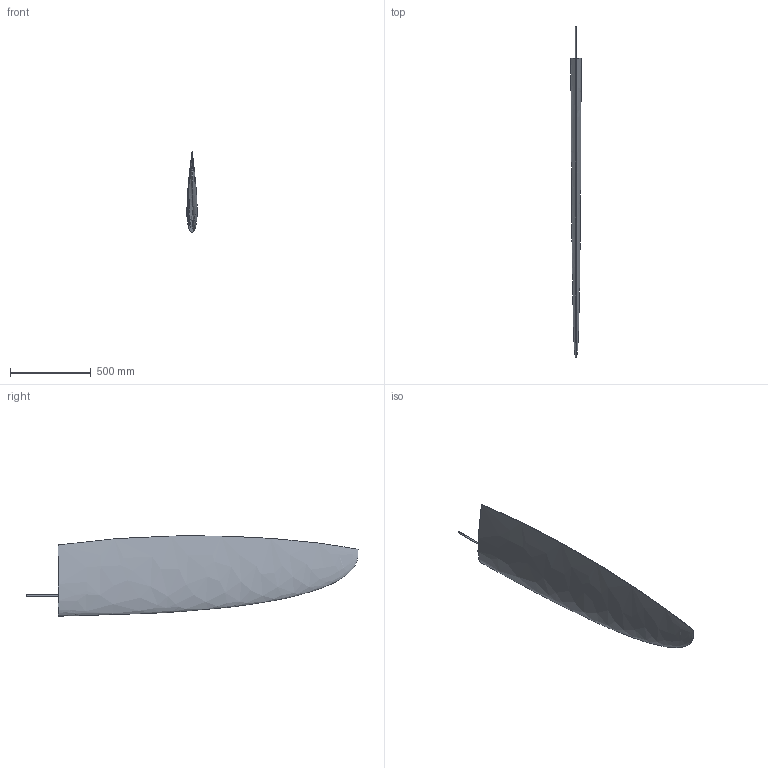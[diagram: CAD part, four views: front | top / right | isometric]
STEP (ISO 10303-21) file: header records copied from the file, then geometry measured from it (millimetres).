
FILE_DESCRIPTION (( 'STEP AP203' ), '1' );
FILE_NAME ('Rudderblade RUD35R.STEP', '2010-12-14T09:37:24', ( '' ), ( '' ), 'SwSTEP 2.0', 'SolidWorks 2010', '' );
FILE_SCHEMA (( 'CONFIG_CONTROL_DESIGN' ));
Length unit declared in the file: millimetre
Products named in the file (1): Rudderblade RUD35R
Bounding box: 63.05 x 2061.14 x 498.44 mm (x, y, z)
Surface area: 1567466.1 mm2 (no closed solid volume)
Topology: 0 solids, 1 shells, 9 faces, 18 edges, 10 vertices
Faces by surface type: bspline 4, plane 3, cylinder 2
Entity records: 11253 total; most frequent: CARTESIAN_POINT 11022, ORIENTED_EDGE 32, DIRECTION 24, EDGE_CURVE 16, AXIS2_PLACEMENT_3D 10, VERTEX_POINT 10, EDGE_LOOP 10, ADVANCED_FACE 9
